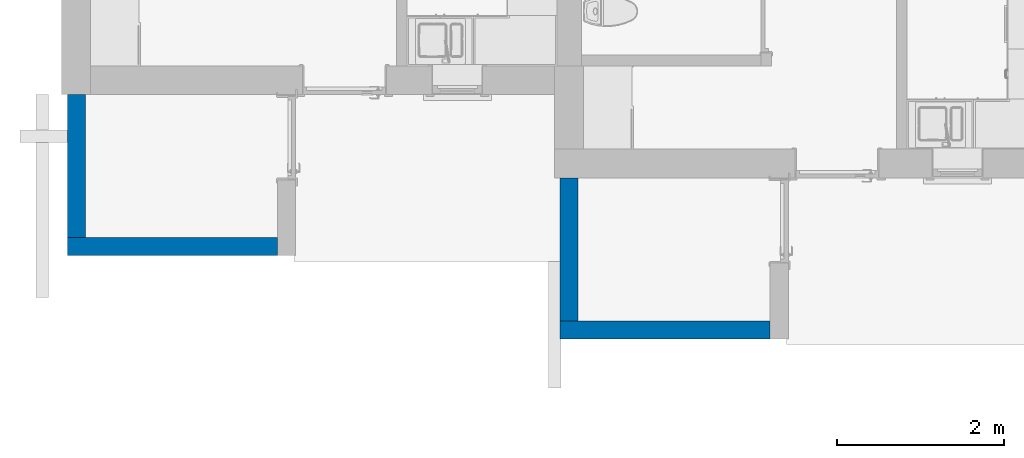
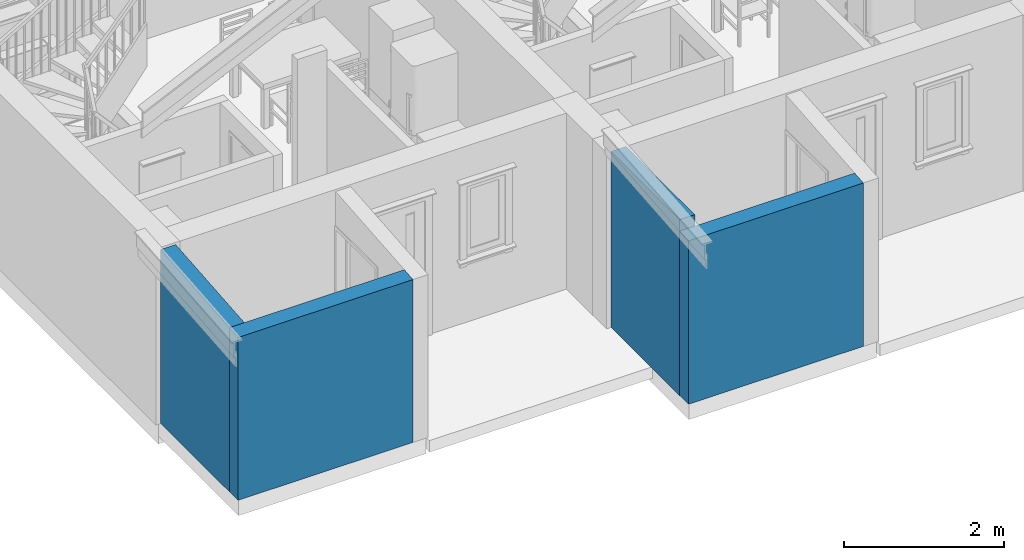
# One storey, part 2 of 65: 4 walls.
"""IFC2X3 building model written with IfcOpenShell, lengths in millimetres."""

import ifcopenshell
import ifcopenshell.guid

model = None  # the IFC model being written
_history = None  # IfcOwnerHistory: only IFC2X3 demands one
_inside = {}  # id of a spatial element -> (the spatial element, [elements in it])
_under = {}  # id of a project, library or spatial element -> (it, [spatial elements below it])
_declared = {}  # id of a project -> (the project, [libraries it declares])
_typed = {}  # id of a type object -> (the type object, [elements of that type])
_made_of = {}  # id of a material, layer set ... -> (it, [elements and type objects made of it])


def new_model(schema):
    """Start an empty IFC model of exactly this schema.

    Asked for "IFC4X3", IfcOpenShell would pick the latest addendum, in which some entities
    have other attributes; the version numbers below select the first issue.
    IFC2X3 requires an IfcOwnerHistory on every rooted entity: one is made here for all.
    """
    global model, _history
    if schema == "IFC4X3":
        model = ifcopenshell.file(schema_version=(4, 3, 0, 0))
    else:
        model = ifcopenshell.file(schema=schema)
    _inside.clear()
    _under.clear()
    _declared.clear()
    _typed.clear()
    _made_of.clear()
    _history = None
    if model.schema == "IFC2X3":
        org = make("IfcOrganization", Name="unknown")
        user = make(
            "IfcPersonAndOrganization",
            ThePerson=make("IfcPerson", FamilyName="unknown"),
            TheOrganization=org,
        )
        app = make(
            "IfcApplication",
            ApplicationDeveloper=org,
            Version="unknown",
            ApplicationFullName="unknown",
            ApplicationIdentifier="unknown",
        )
        _history = make(
            "IfcOwnerHistory",
            OwningUser=user,
            OwningApplication=app,
            ChangeAction="ADDED",
            CreationDate=0,
        )
    return model


def make(cls, **values):
    """One entity of the class cls with the attributes given. An attribute that is None is left unset."""
    return model.create_entity(
        cls, **{name: value for name, value in values.items() if value is not None}
    )


def entity(cls, *values):
    """Any entity or typed value of the class cls, its attributes in the order of the schema. None: left unset."""
    e = model.create_entity(cls)
    for i, value in enumerate(values):
        if value is not None:
            e[i] = value
    return e


def rooted(cls, **values):
    """An entity with a GlobalId (a new one), such as an element, a storey or a relation."""
    return make(cls, GlobalId=ifcopenshell.guid.new(), OwnerHistory=_history, **values)


def si_unit(unit_type, name, prefix=None):
    """IfcSIUnit, for example si_unit("LENGTHUNIT", "METRE", prefix="MILLI")."""
    return make("IfcSIUnit", UnitType=unit_type, Prefix=prefix, Name=name)


def converted_unit(unit_type, name, factor, base, dimensions=None, offset=None):
    """IfcConversionBasedUnit, such as the inch: factor (a typed value) times the base unit."""
    return make(
        "IfcConversionBasedUnit"
        if offset is None
        else "IfcConversionBasedUnitWithOffset",
        ConversionOffset=offset,
        Dimensions=None
        if dimensions is None
        else entity("IfcDimensionalExponents", *dimensions),
        UnitType=unit_type,
        Name=name,
        ConversionFactor=make(
            "IfcMeasureWithUnit", ValueComponent=factor, UnitComponent=base
        ),
    )


def assignment(units):
    """IfcUnitAssignment: the units of a project."""
    return None if units is None else make("IfcUnitAssignment", Units=units)


def point(xyz):
    """IfcCartesianPoint."""
    return None if xyz is None else make("IfcCartesianPoint", Coordinates=xyz)


def direction(xyz):
    """IfcDirection."""
    return None if xyz is None else make("IfcDirection", DirectionRatios=xyz)


def frame(location, z_axis=None, x_axis=None):
    """IfcAxis2Placement3D, a coordinate frame: its origin and axes. An axis left out is left unset."""
    return make(
        "IfcAxis2Placement3D",
        Location=point(location),
        Axis=direction(z_axis),
        RefDirection=direction(x_axis),
    )


def frame_2d(location, x_axis=None):
    """IfcAxis2Placement2D, a coordinate frame in the plane: its origin and x axis."""
    return make(
        "IfcAxis2Placement2D", Location=point(location), RefDirection=direction(x_axis)
    )


def origin():
    """The frame at (0, 0, 0) with its axes left unset."""
    return frame((0.0, 0.0, 0.0))


def place(relative_to, where):
    """IfcLocalPlacement: puts the frame where relative to a parent placement (None: the world)."""
    return make(
        "IfcLocalPlacement", PlacementRelTo=relative_to, RelativePlacement=where
    )


def context(
    kind, dimensions, precision=None, world=None, true_north=None, identifier=None
):
    """IfcGeometricRepresentationContext, for example the 3D "Model" context."""
    return make(
        "IfcGeometricRepresentationContext",
        ContextIdentifier=identifier,
        ContextType=kind,
        CoordinateSpaceDimension=dimensions,
        Precision=precision,
        WorldCoordinateSystem=world,
        TrueNorth=true_north,
    )


def subcontext(parent, identifier, kind, view, scale=None):
    """IfcGeometricRepresentationSubContext, for example "Body" below "Model"."""
    return make(
        "IfcGeometricRepresentationSubContext",
        ContextIdentifier=identifier,
        ContextType=kind,
        ParentContext=parent,
        TargetScale=scale,
        TargetView=view,
    )


def project(units=None, contexts=None):
    """IfcProject with its units and contexts."""
    return rooted(
        "IfcProject",
        Name="project",
        RepresentationContexts=contexts,
        UnitsInContext=assignment(units),
    )


def spatial(cls, under=None, at=None, **own):
    """A site, building, storey or space (cls), placed at a placement, below another one or the project."""
    s = rooted(cls, ObjectPlacement=at, **own)
    if under is not None:
        _under.setdefault(under.id(), (under, []))[1].append(s)
    return s


def polyline(points):
    """IfcPolyline through the points."""
    return make("IfcPolyline", Points=[point(p) for p in points])


def profile(cls, at=None, kind="AREA", **sizes):
    """A parametric profile (cls). Its sizes go by their IFC names, for example OverallWidth=200.0."""
    return make(cls, ProfileType=kind, Position=at, **sizes)


def rectangle(**sizes):
    """IfcRectangleProfileDef."""
    return profile("IfcRectangleProfileDef", **sizes)


def extrude(swept, where, along, depth):
    """IfcExtrudedAreaSolid: the profile swept, set in the frame where, extruded along a direction by depth."""
    return make(
        "IfcExtrudedAreaSolid",
        SweptArea=swept,
        Position=where,
        ExtrudedDirection=direction(along),
        Depth=depth,
    )


def clip(a, b, op="DIFFERENCE"):
    """IfcBooleanClippingResult: the solid a cut by the half space b."""
    return make(
        "IfcBooleanClippingResult", Operator=op, FirstOperand=a, SecondOperand=b
    )


def bounded_halfspace(plane, agree, where, boundary):
    """IfcPolygonalBoundedHalfSpace: a half space limited to a polygon's prism."""
    return make(
        "IfcPolygonalBoundedHalfSpace",
        BaseSurface=make("IfcPlane", Position=plane),
        AgreementFlag=agree,
        Position=where,
        PolygonalBoundary=boundary,
    )


def shape(context_of_items, identifier, shape_type, items):
    """IfcShapeRepresentation: the items that make up one representation, for example the "Body"."""
    return make(
        "IfcShapeRepresentation",
        ContextOfItems=context_of_items,
        RepresentationIdentifier=identifier,
        RepresentationType=shape_type,
        Items=items,
    )


def material(Name=None, Category=None):
    """IfcMaterial."""
    return make("IfcMaterial", Name=Name, Category=Category)


def layer(
    of_material, thickness, ventilated=None, Name=None, Category=None, Priority=None
):
    """IfcMaterialLayer: one layer of a wall or slab, of a material (None: an air gap)."""
    return make(
        "IfcMaterialLayer",
        Material=of_material,
        LayerThickness=thickness,
        IsVentilated=ventilated,
        Name=Name,
        Category=Category,
        Priority=Priority,
    )


def layer_set(layers, Name=None):
    """IfcMaterialLayerSet."""
    return make("IfcMaterialLayerSet", MaterialLayers=layers, LayerSetName=Name)


def layer_usage(for_layer_set, set_direction, sense, offset, extent=None):
    """IfcMaterialLayerSetUsage: how a layer set lies in its element."""
    return make(
        "IfcMaterialLayerSetUsage",
        ForLayerSet=for_layer_set,
        LayerSetDirection=set_direction,
        DirectionSense=sense,
        OffsetFromReferenceLine=offset,
        ReferenceExtent=extent,
    )


def made_of(thing, what):
    """Note that an element or type object is made of a material, layer set ...; save() writes the relation."""
    if what is not None:
        _made_of.setdefault(what.id(), (what, []))[1].append(thing)
    return thing


def type_object(cls, material=None, **own):
    """A type object (cls), such as IfcWallType, which elements share."""
    return made_of(rooted(cls, **own), material)


def element(
    cls,
    number,
    at=None,
    inside=None,
    cuts=None,
    type_object=None,
    material=None,
    context=None,
    identifier="Body",
    shape_type=None,
    held_by="IfcProductDefinitionShape",
    body=None,
    shapes=None,
    **own,
):
    """One element of the class cls, such as IfcWall. Its Tag is "e" and its number.

    at: its placement. inside: the storey or other place that contains it. cuts: it is an
    opening in that element (IfcRelVoidsElement). A single representation is given by context,
    identifier, shape_type and body (its items); several are given by shapes. held_by: the class
    of the entity that holds the representations. save() writes the other relations.
    """
    e = rooted(cls, Tag="e%d" % number, ObjectPlacement=at, **own)
    if body is not None:
        shapes = [shape(context, identifier, shape_type, body)]
    if shapes is not None:
        e.Representation = make(held_by, Representations=shapes)
    if inside is not None:
        _inside.setdefault(inside.id(), (inside, []))[1].append(e)
    if cuts is not None:
        rooted(
            "IfcRelVoidsElement", RelatingBuildingElement=cuts, RelatedOpeningElement=e
        )
    if type_object is not None:
        _typed.setdefault(type_object.id(), (type_object, []))[1].append(e)
    return made_of(e, material)


def aggregate(whole, parts):
    """IfcRelAggregates: a whole, such as a stair, and the parts it consists of."""
    return rooted("IfcRelAggregates", RelatingObject=whole, RelatedObjects=parts)


def save(model, path):
    """Write the relations noted so far, then the file.

    IfcRelAggregates (storeys below a building ...), IfcRelContainedInSpatialStructure (elements
    in a storey), IfcRelDefinesByType, IfcRelAssociatesMaterial and IfcRelDeclares: one each for
    every whole, place, type object, material and project.
    """
    for whole, parts in _under.values():
        aggregate(whole, parts)
    for where, things in _inside.values():
        rooted(
            "IfcRelContainedInSpatialStructure",
            RelatedElements=things,
            RelatingStructure=where,
        )
    for kind, things in _typed.values():
        rooted("IfcRelDefinesByType", RelatedObjects=things, RelatingType=kind)
    for what, things in _made_of.values():
        rooted("IfcRelAssociatesMaterial", RelatedObjects=things, RelatingMaterial=what)
    for by, libraries in _declared.values():
        rooted("IfcRelDeclares", RelatingContext=by, RelatedDefinitions=libraries)
    model.write(path)


model = new_model("IFC2X3")

# Units and contexts
model_context = context("Model", 3, precision=0.01, world=origin(), true_north=direction((0.0, 1.0)))
body_context = subcontext(model_context, "Body", "Model", "MODEL_VIEW")
ifc_project = project(units=[si_unit("LENGTHUNIT", "METRE", prefix="MILLI"), si_unit("AREAUNIT", "SQUARE_METRE"), si_unit("VOLUMEUNIT", "CUBIC_METRE"), converted_unit("PLANEANGLEUNIT", "DEGREE", entity("IfcPlaneAngleMeasure", 0.017453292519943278), si_unit("PLANEANGLEUNIT", "RADIAN"), dimensions=[0, 0, 0, 0, 0, 0, 0])], contexts=[model_context])

# Site, building, storey
site_placement = place(None, origin())
site = spatial("IfcSite", under=ifc_project, at=site_placement, Name="Default", CompositionType="ELEMENT")
building_placement = place(site_placement, origin())
building = spatial("IfcBuilding", under=site, at=building_placement, CompositionType="ELEMENT")
storey_placement = place(building_placement, origin())
storey = spatial("IfcBuildingStorey", under=building, at=storey_placement, Name="Et. 1", CompositionType="ELEMENT", Elevation=0.0)

# Walls
ifc_material_1 = material(Name="Vegg - Stående Kledning_smal - HVIT")
ifc_layer_1 = layer(ifc_material_1, 19.0)
ifc_material_2 = material(Name="Vegg - Stender - Isolert")
ifc_layer_2 = layer(ifc_material_2, 198.0)
ifc_layer_set = layer_set([ifc_layer_1, ifc_layer_2], Name="Basic Wall:23-Kv(sm)TIG-19_Bod")
ifc_layer_usage_1 = layer_usage(ifc_layer_set, "AXIS2", "NEGATIVE", 108.5)
wall_type = type_object("IfcWallType", Name="Basic Wall:23-Kv(sm)TIG-19_Bod", PredefinedType="STANDARD", material=ifc_layer_set)
wall_1_placement = place(storey_placement, frame((12680.009586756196, 9584.68095768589, 0.0), z_axis=(0.0, 0.0, 1.0), x_axis=(-1.0, 0.0, 0.0)))
element("IfcWallStandardCase", 1, at=wall_1_placement, inside=storey, type_object=wall_type, material=ifc_layer_usage_1, Name="Basic Wall:23-Kv(sm)TIG-19_Bod", context=body_context, shape_type="Clipping", body=[
    clip(extrude(rectangle(XDim=2521.000000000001, YDim=217.00000000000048, at=frame_2d((1260.5000000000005, 2.1316282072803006e-13), x_axis=(-1.0, 0.0))), origin(), (0.0, 0.0, 1.0), 2499.985039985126), bounded_halfspace(frame((0.0, -108.50000000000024, 2499.9850399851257), z_axis=(0.0, 0.08715574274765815, 0.9961946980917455), x_axis=(-1.0, 0.0, 0.0)), False, frame((0.0, -108.50000000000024, 2499.9850399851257)), polyline([(0.0, 0.0), (2304.0, 0.0), (2521.0, 0.0), (2521.0, 217.0), (0.0, 217.0), (0.0, 0.0)]))),
])
ifc_layer_usage_2 = layer_usage(ifc_layer_set, "AXIS2", "NEGATIVE", 108.5)
wall_2_placement = place(storey_placement, frame((10267.509586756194, 9693.180957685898, 0.0), z_axis=(0.0, 0.0, 1.0), x_axis=(0.0, 1.0, 0.0)))
element("IfcWallStandardCase", 2, at=wall_2_placement, inside=storey, type_object=wall_type, material=ifc_layer_usage_2, Name="Basic Wall:23-Kv(sm)TIG-19_Bod", context=body_context, shape_type="Clipping", body=[
    clip(extrude(rectangle(XDim=1714.9999999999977, YDim=216.9999999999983, at=frame_2d((857.4999999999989, -3.836930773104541e-13), x_axis=(-1.0, 0.0))), origin(), (0.0, 0.0, 1.0), 2650.0280979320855), bounded_halfspace(frame((0.0, -108.50000000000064, 2499.9850399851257), z_axis=(-0.08715574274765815, 0.0, 0.9961946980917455), x_axis=(0.0, -1.0, 0.0)), False, frame((0.0, -108.50000000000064, 2499.9850399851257)), polyline([(0.0, 0.0), (1715.0, 0.0), (1715.0, 217.0), (0.0, 217.0), (0.0, 0.0)]))),
])
ifc_layer_usage_3 = layer_usage(ifc_layer_set, "AXIS2", "NEGATIVE", 108.5)
wall_3_placement = place(storey_placement, frame((18590.509586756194, 8584.680957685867, 0.0), z_axis=(0.0, 0.0, 1.0), x_axis=(-1.0, 0.0, 0.0)))
element("IfcWallStandardCase", 3, at=wall_3_placement, inside=storey, type_object=wall_type, material=ifc_layer_usage_3, Name="Basic Wall:23-Kv(sm)TIG-19_Bod", context=body_context, shape_type="Clipping", body=[
    clip(extrude(rectangle(XDim=2521.000000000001, YDim=217.00000000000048, at=frame_2d((1260.5000000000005, 3.126388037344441e-13), x_axis=(-1.0, 0.0))), origin(), (0.0, 0.0, 1.0), 2507.5965537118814), bounded_halfspace(frame((0.0, -108.50000000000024, 2507.596553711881), z_axis=(0.0, 0.08715574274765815, 0.9961946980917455), x_axis=(-1.0, 0.0, 0.0)), False, frame((0.0, -108.50000000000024, 2507.596553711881)), polyline([(0.0, 0.0), (2521.0, 0.0), (2521.0, 217.0), (0.0, 217.0), (0.0, 0.0)]))),
])
ifc_layer_usage_4 = layer_usage(ifc_layer_set, "AXIS2", "NEGATIVE", 108.5)
wall_4_placement = place(storey_placement, frame((16178.009586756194, 8693.180957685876, 0.0), z_axis=(0.0, 0.0, 1.0), x_axis=(0.0, 1.0, 0.0)))
element("IfcWallStandardCase", 4, at=wall_4_placement, inside=storey, type_object=wall_type, material=ifc_layer_usage_4, Name="Basic Wall:23-Kv(sm)TIG-19_Bod", context=body_context, shape_type="SweptSolid", body=[
    extrude(rectangle(XDim=1715.000000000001, YDim=216.9999999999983, at=frame_2d((857.5000000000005, -3.907985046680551e-13), x_axis=(-1.0, 0.0))), origin(), (0.0, 0.0, 1.0), 2681.0),
])

save(model, "model.ifc")
